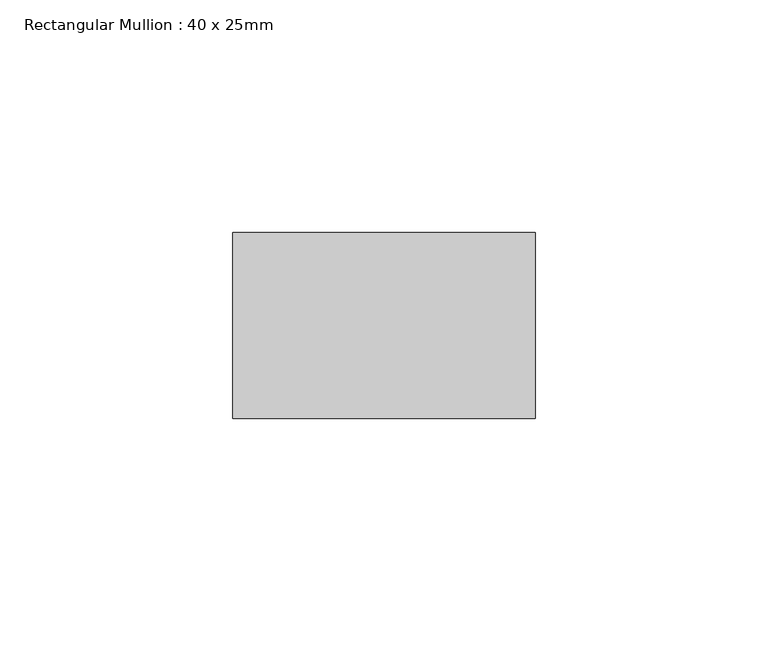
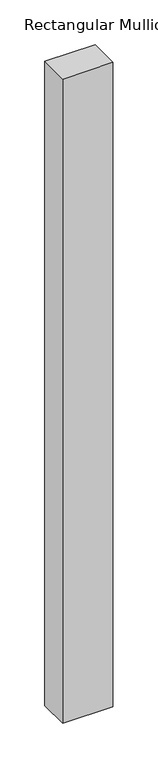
"""IFC4 building model written with IfcOpenShell, lengths in millimetres: member geometry, Rectangular Mullion : 40 x 25mm."""

from ifc_helpers import new_model, si_unit, frame, origin, place, context, project, spatial, polyline, outline, extrude, source, transform, mapped, element, save


def rectangular_mullion_40_x_25mm_86bb8146(model_context):
    return source(origin(), model_context, "Body", "SweptSolid", [
        extrude(outline(polyline([(0.0, -20.0), (0.0, -60.0), (-65.0, -60.0), (-65.0, -20.0), (0.0, -20.0)])), frame((0.0, 0.0, -879.3467608), z_axis=(0.0, 0.0, 1.0), x_axis=(1.0, 0.0, 0.0)), (0.0, 0.0, 1.0), 879.3467608),
    ])


if __name__ == "__main__":
    model = new_model("IFC4")
    model_context = context("Model", 3, world=origin())
    ifc_project = project(units=[si_unit("LENGTHUNIT", "METRE", prefix="MILLI")], contexts=[model_context])
    site = spatial("IfcSite", under=ifc_project)
    building = spatial("IfcBuilding", under=site)
    placement = place(None, origin())
    rectangular_mullion_40_x_25mm_shape = rectangular_mullion_40_x_25mm_86bb8146(model_context)
    element("IfcMember", 1, ObjectType="Rectangular Mullion : 40 x 25mm", at=placement, inside=building, context=model_context, shape_type="MappedRepresentation", body=[
        mapped(rectangular_mullion_40_x_25mm_shape, transform((0.0, 0.0, 0.0), x_axis=(1.0, 0.0, 0.0), y_axis=(0.0, 1.0, 0.0), z_axis=(0.0, 0.0, 1.0))),
    ])
    save(model, "model.ifc")
